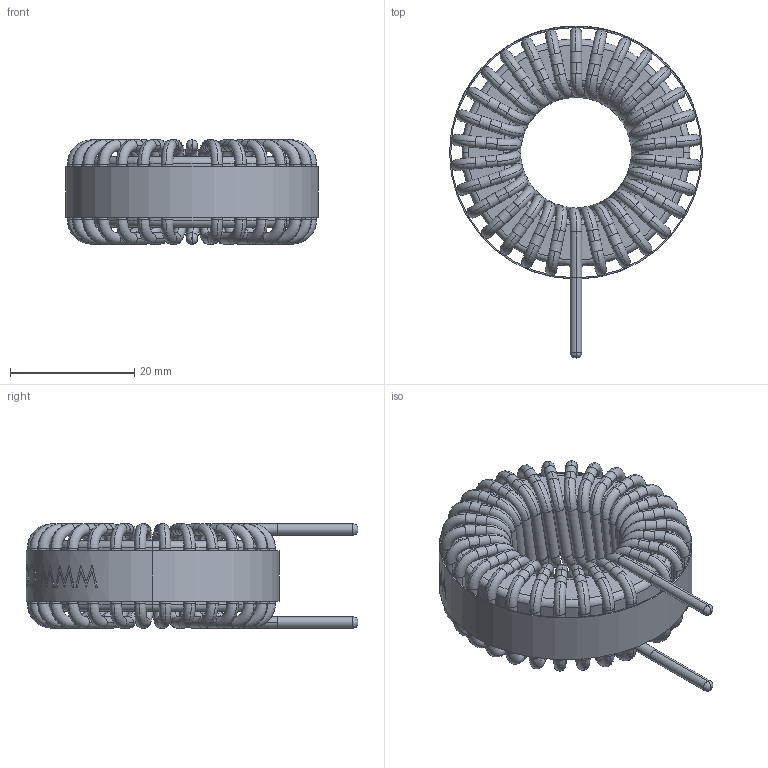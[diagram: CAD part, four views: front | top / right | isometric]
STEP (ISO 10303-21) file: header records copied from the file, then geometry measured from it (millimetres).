
FILE_DESCRIPTION (( 'STEP AP214' ), '1' );
FILE_NAME ('HF358-101M-15AV.step', '2021-03-04T09:50:43', ( '' ), ( '' ), 'SwSTEP 2.0', 'SolidWorks 2015', '' );
FILE_SCHEMA (( 'AUTOMOTIVE_DESIGN' ));
Length unit declared in the file: millimetre
Products named in the file (4): HF358-101M-15AV; WINDING; WRAPPER; CORE
Assembly tree (3 placements, depth 2):
  HF358-101M-15AV
    CORE
    WINDING
    WRAPPER
Bounding box: 40.76 x 53.47 x 16.81 mm (x, y, z)
Volume: 11484.6 mm3; surface area: 13266 mm2
Topology: 34 solids, 34 shells, 778 faces, 2070 edges, 1376 vertices
Faces by surface type: cylinder 324, torus 248, plane 103, bspline 103
Entity records: 42733 total; most frequent: CARTESIAN_POINT 14478, DIRECTION 4506, ORIENTED_EDGE 4140, AXIS2_PLACEMENT_3D 2089, EDGE_CURVE 2070, CIRCLE 1408, VERTEX_POINT 1376, EDGE_LOOP 798
